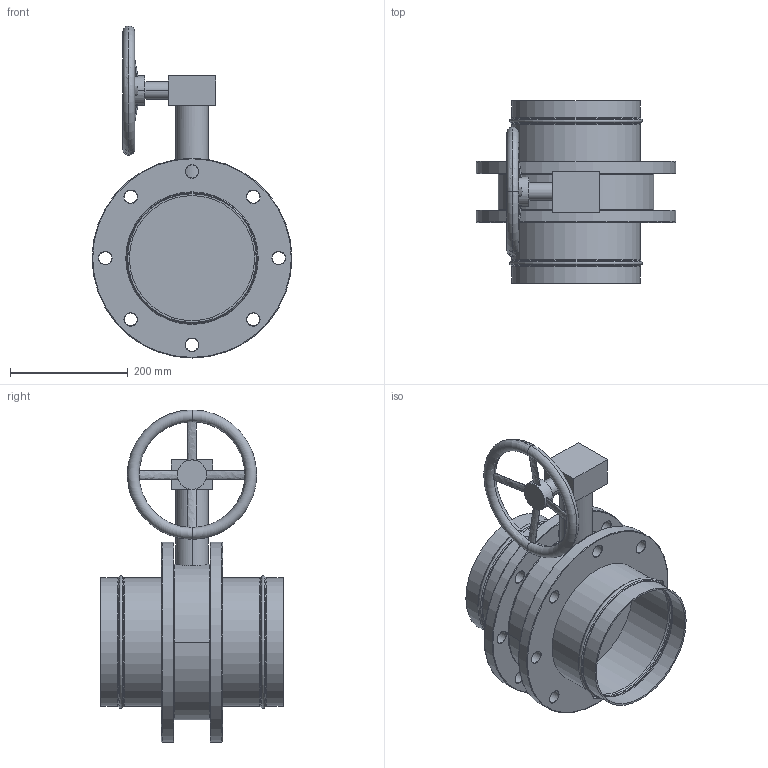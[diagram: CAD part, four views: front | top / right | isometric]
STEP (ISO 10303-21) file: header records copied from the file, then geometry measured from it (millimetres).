
FILE_DESCRIPTION(/* description */ (''),/* implementation_level */ '2;1');
FILE_NAME(/* name */ '50151110103.stp',/* time_stamp */ '2020-06-22T14:22:08+08:00',/* author */ (''),/* organization */ (''),/* preprocessor_version */ 'ST-DEVELOPER v11',/* originating_system */ 'SIEMENS PLM Software NX 7.5',/* authorisation */ '');
FILE_SCHEMA (('CONFIG_CONTROL_DESIGN'));
Length unit declared in the file: millimetre
Products named in the file (1): Admi4F60b41d
Bounding box: 340 x 311 x 565 mm (x, y, z)
Volume: 6828144.5 mm3; surface area: 857159.1 mm2
Topology: 3 solids, 3 shells, 142 faces, 330 edges, 202 vertices
Faces by surface type: cone 52, cylinder 34, plane 24, torus 24, extrusion 8
Full cylindrical faces by diameter (mm): 22 x16, 213 x4, 219 x4, 340 x2
Entity records: 3872 total; most frequent: CARTESIAN_POINT 891, DIRECTION 628, ORIENTED_EDGE 432, AXIS2_PLACEMENT_3D 295, EDGE_LOOP 292, FACE_BOUND 268, EDGE_CURVE 216, VERTEX_POINT 186
